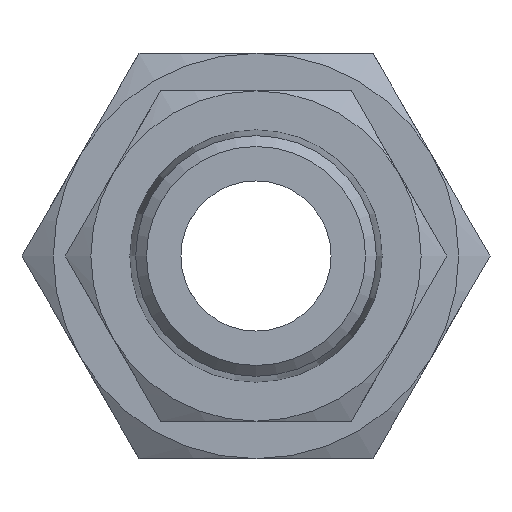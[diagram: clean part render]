
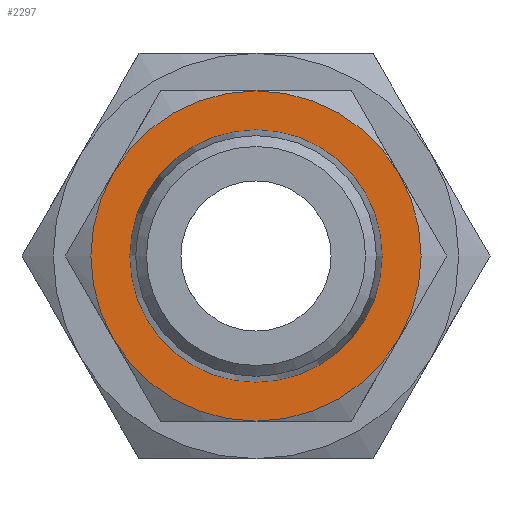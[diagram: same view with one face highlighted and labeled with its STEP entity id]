
A CAD part, front view. The second image highlights one B-rep face of the part: STEP entity #2297.
In plain terms, the highlighted planar face has unit normal (0, -1, 0).
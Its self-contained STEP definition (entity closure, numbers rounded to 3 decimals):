
#1252=CARTESIAN_POINT('',(-9.526,13.,-5.5));
#1253=VERTEX_POINT('',#1252);
#1338=CARTESIAN_POINT('',(9.526,13.,-5.5));
#1339=VERTEX_POINT('',#1338);
#1420=CARTESIAN_POINT('',(0.,13.,-11.));
#1421=VERTEX_POINT('',#1420);
#1486=CARTESIAN_POINT('',(9.526,13.,5.5));
#1487=VERTEX_POINT('',#1486);
#1561=CARTESIAN_POINT('',(0.,13.,11.));
#1562=VERTEX_POINT('',#1561);
#1636=CARTESIAN_POINT('',(-9.526,13.,5.5));
#1637=VERTEX_POINT('',#1636);
#1703=CARTESIAN_POINT('',(0.,13.,0.0));
#1704=DIRECTION('',(0.0,-1.0,0.0));
#1705=DIRECTION('',(1.0,0.0,0.0));
#1706=AXIS2_PLACEMENT_3D('',#1703,#1704,#1705);
#1707=CIRCLE('',#1706,11.);
#1708=EDGE_CURVE('',#1562,#1637,#1707,.T.);
#1721=CARTESIAN_POINT('',(0.,13.,0.0));
#1722=DIRECTION('',(0.0,-1.0,0.0));
#1723=DIRECTION('',(1.0,0.0,0.0));
#1724=AXIS2_PLACEMENT_3D('',#1721,#1722,#1723);
#1725=CIRCLE('',#1724,11.);
#1726=EDGE_CURVE('',#1487,#1562,#1725,.T.);
#1737=CARTESIAN_POINT('',(0.,13.,0.0));
#1738=DIRECTION('',(0.0,-1.0,0.0));
#1739=DIRECTION('',(1.0,0.0,0.0));
#1740=AXIS2_PLACEMENT_3D('',#1737,#1738,#1739);
#1741=CIRCLE('',#1740,11.);
#1742=EDGE_CURVE('',#1637,#1253,#1741,.T.);
#1755=CARTESIAN_POINT('',(0.,13.,0.0));
#1756=DIRECTION('',(0.0,-1.0,0.0));
#1757=DIRECTION('',(1.0,0.0,0.0));
#1758=AXIS2_PLACEMENT_3D('',#1755,#1756,#1757);
#1759=CIRCLE('',#1758,11.);
#1760=EDGE_CURVE('',#1339,#1487,#1759,.T.);
#1772=CARTESIAN_POINT('',(0.,13.,0.0));
#1773=DIRECTION('',(0.0,-1.0,0.0));
#1774=DIRECTION('',(1.0,0.0,0.0));
#1775=AXIS2_PLACEMENT_3D('',#1772,#1773,#1774);
#1776=CIRCLE('',#1775,11.);
#1777=EDGE_CURVE('',#1421,#1339,#1776,.T.);
#2262=CARTESIAN_POINT('',(0.,13.,0.0));
#2263=DIRECTION('',(0.0,-1.0,0.0));
#2264=DIRECTION('',(1.0,0.0,0.0));
#2265=AXIS2_PLACEMENT_3D('',#2262,#2263,#2264);
#2266=CIRCLE('',#2265,11.);
#2267=EDGE_CURVE('',#1253,#1421,#2266,.T.);
#2273=CARTESIAN_POINT('',(9.7,13.,0.0));
#2274=DIRECTION('',(0.0,-1.0,0.0));
#2275=DIRECTION('',(0.0,0.0,-1.0));
#2276=AXIS2_PLACEMENT_3D('',#2273,#2274,#2275);
#2277=PLANE('',#2276);
#2278=ORIENTED_EDGE('',*,*,#1760,.T.);
#2279=ORIENTED_EDGE('',*,*,#1726,.T.);
#2280=ORIENTED_EDGE('',*,*,#1708,.T.);
#2281=ORIENTED_EDGE('',*,*,#1742,.T.);
#2282=ORIENTED_EDGE('',*,*,#2267,.T.);
#2283=ORIENTED_EDGE('',*,*,#1777,.T.);
#2284=EDGE_LOOP('',(#2278,#2279,#2280,#2281,#2282,#2283));
#2285=FACE_OUTER_BOUND('',#2284,.T.);
#2286=CARTESIAN_POINT('',(8.4,13.,0.0));
#2287=VERTEX_POINT('',#2286);
#2288=CARTESIAN_POINT('',(0.,13.,0.0));
#2289=DIRECTION('',(0.0,-1.0,0.0));
#2290=DIRECTION('',(1.0,0.0,0.0));
#2291=AXIS2_PLACEMENT_3D('',#2288,#2289,#2290);
#2292=CIRCLE('',#2291,8.4);
#2293=EDGE_CURVE('',#2287,#2287,#2292,.T.);
#2294=ORIENTED_EDGE('',*,*,#2293,.F.);
#2295=EDGE_LOOP('',(#2294));
#2296=FACE_BOUND('',#2295,.T.);
#2297=ADVANCED_FACE('',(#2285,#2296),#2277,.T.);
